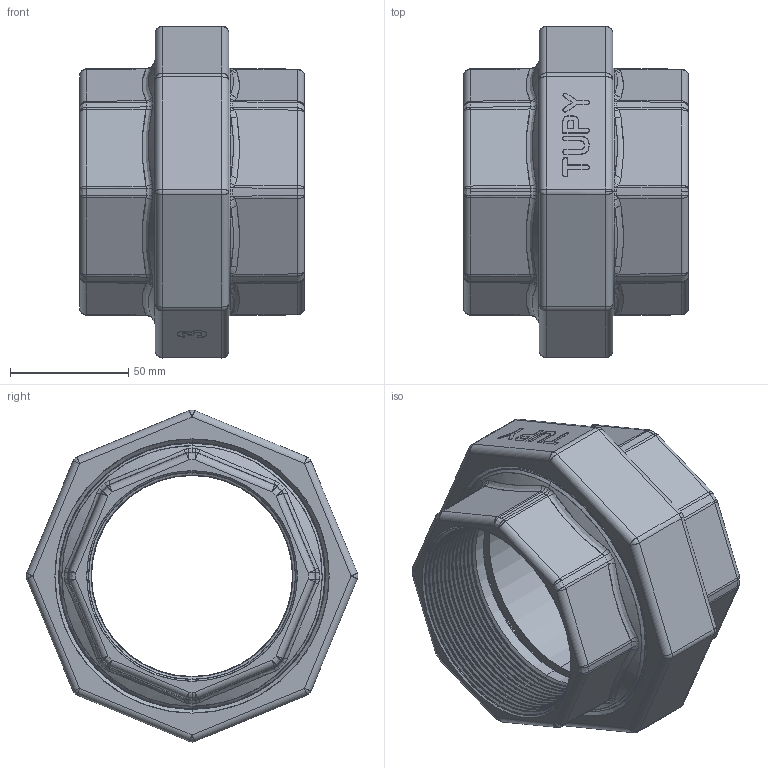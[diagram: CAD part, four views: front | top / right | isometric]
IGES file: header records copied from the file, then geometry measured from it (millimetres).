
Start section: SolidWorks IGES file using analytic representation for surfaces
Global section: file name: C:\Users\Joel Rosa\Desktop\Tubulação\12-62-X\12-62-012.IGS; native system: SolidWorks 2011; preprocessor: SolidWorks 2011; author: Joel Rosa; date: 130721.125043; units: millimetre
Bounding box: 95 x 140.21 x 140.22 mm (x, y, z)
Surface area: 126322.5 mm2 (no closed solid volume)
Topology: 0 solids, 0 shells, 796 faces, 6240 edges, 6234 vertices
Faces by surface type: bspline 485, revolution 311
